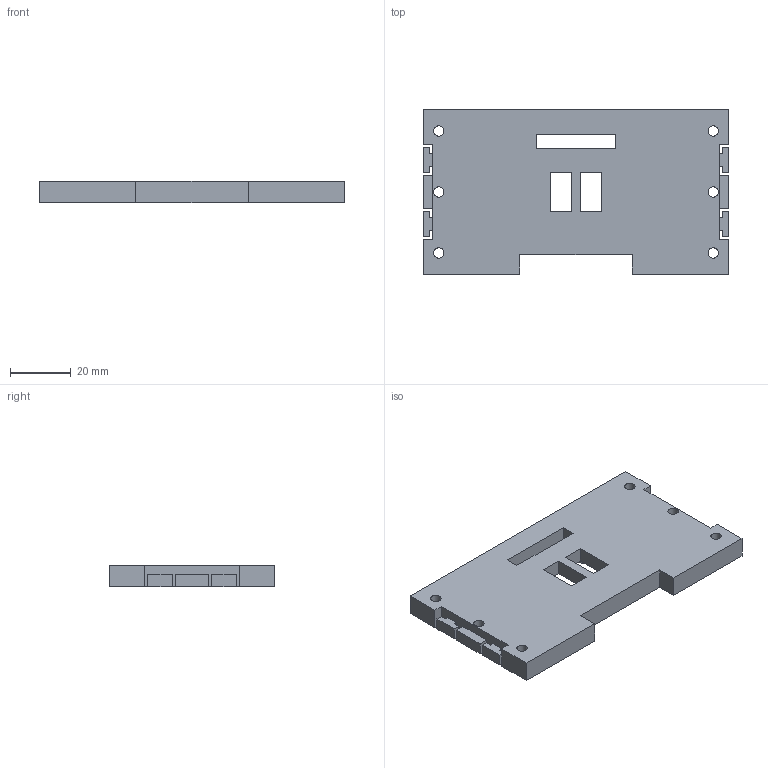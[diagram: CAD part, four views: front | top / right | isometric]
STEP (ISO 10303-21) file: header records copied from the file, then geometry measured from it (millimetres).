
FILE_DESCRIPTION(('Open CASCADE Model'),'2;1');
FILE_NAME('Open CASCADE Shape Model','2023-08-16T10:08:46',('Author'),( 'Open CASCADE'),'Open CASCADE STEP processor 7.7','Open CASCADE 7.7' ,'Unknown');
FILE_SCHEMA(('AUTOMOTIVE_DESIGN { 1 0 10303 214 1 1 1 1 }'));
Length unit declared in the file: millimetre
Products named in the file (1): Open CASCADE STEP translator 7.7 1
Bounding box: 100 x 54 x 7 mm (x, y, z)
Volume: 30956.6 mm3; surface area: 13805.5 mm2
Topology: 1 solids, 1 shells, 94 faces, 255 edges, 170 vertices
Faces by surface type: plane 81, cylinder 13
Full cylindrical faces by diameter (mm): 3.4 x6, 6.5 x6, 25 x1
Entity records: 6096 total; most frequent: CARTESIAN_POINT 1220, DIRECTION 791, LINE 523, VECTOR 523, ORIENTED_EDGE 510, PCURVE 510, DEFINITIONAL_REPRESENTATION 510, EDGE_CURVE 255
